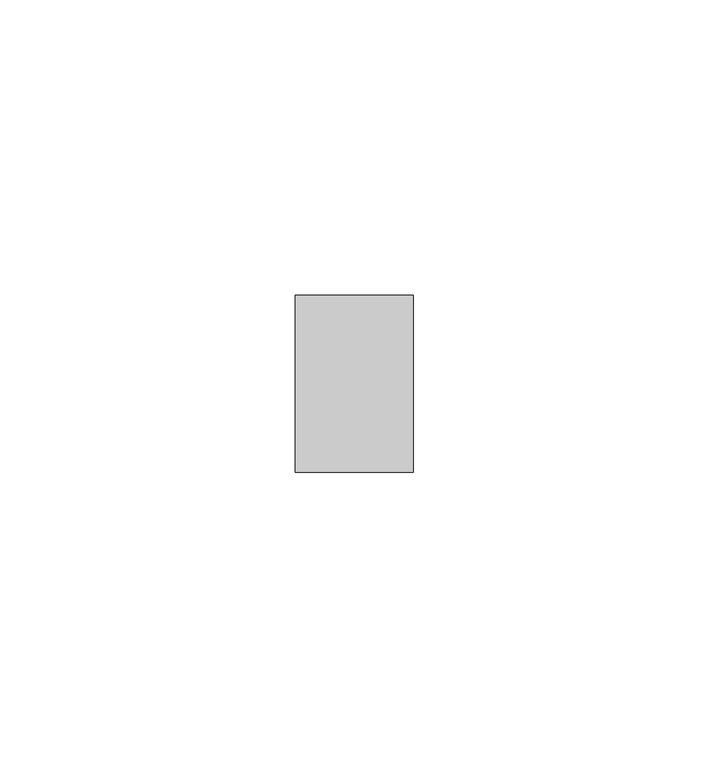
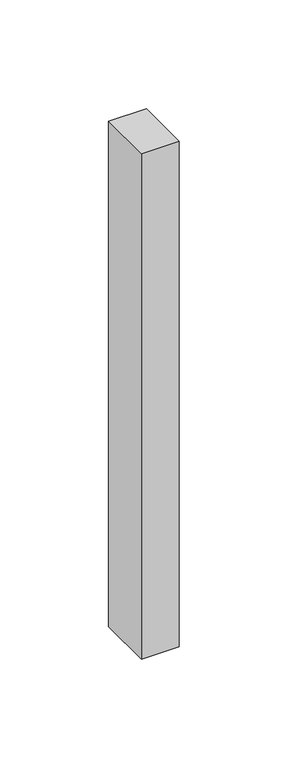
"""IFC4 building model written with IfcOpenShell, lengths in millimetres: member geometry, Прямоугольный импост : Квадрат 10 мм - Зазор между навесными плитами."""

from ifc_helpers import new_model, si_unit, frame, origin, place, context, project, spatial, polyline, outline, extrude, source, transform, mapped, element, save


def member_83d3e716(model_context):
    return source(origin(), model_context, "Body", "SweptSolid", [
        extrude(outline(polyline([(10.0, 15.0), (10.0, -15.0), (-10.0, -15.0), (-10.0, 15.0), (10.0, 15.0)])), frame((0.0, 0.0, -283.405918), z_axis=(0.0, 0.0, 1.0), x_axis=(1.0, 0.0, 0.0)), (0.0, 0.0, 1.0), 283.405918),
    ])


if __name__ == "__main__":
    model = new_model("IFC4")
    model_context = context("Model", 3, world=origin())
    ifc_project = project(units=[si_unit("LENGTHUNIT", "METRE", prefix="MILLI")], contexts=[model_context])
    site = spatial("IfcSite", under=ifc_project)
    building = spatial("IfcBuilding", under=site)
    placement = place(None, origin())
    member_shape = member_83d3e716(model_context)
    element("IfcMember", 1, ObjectType="Прямоугольный импост : Квадрат 10 мм - Зазор между навесными плитами", at=placement, inside=building, context=model_context, shape_type="MappedRepresentation", body=[
        mapped(member_shape, transform((0.0, 0.0, 0.0), x_axis=(1.0, 0.0, 0.0), y_axis=(0.0, 1.0, 0.0), z_axis=(0.0, 0.0, 1.0))),
    ])
    save(model, "model.ifc")
